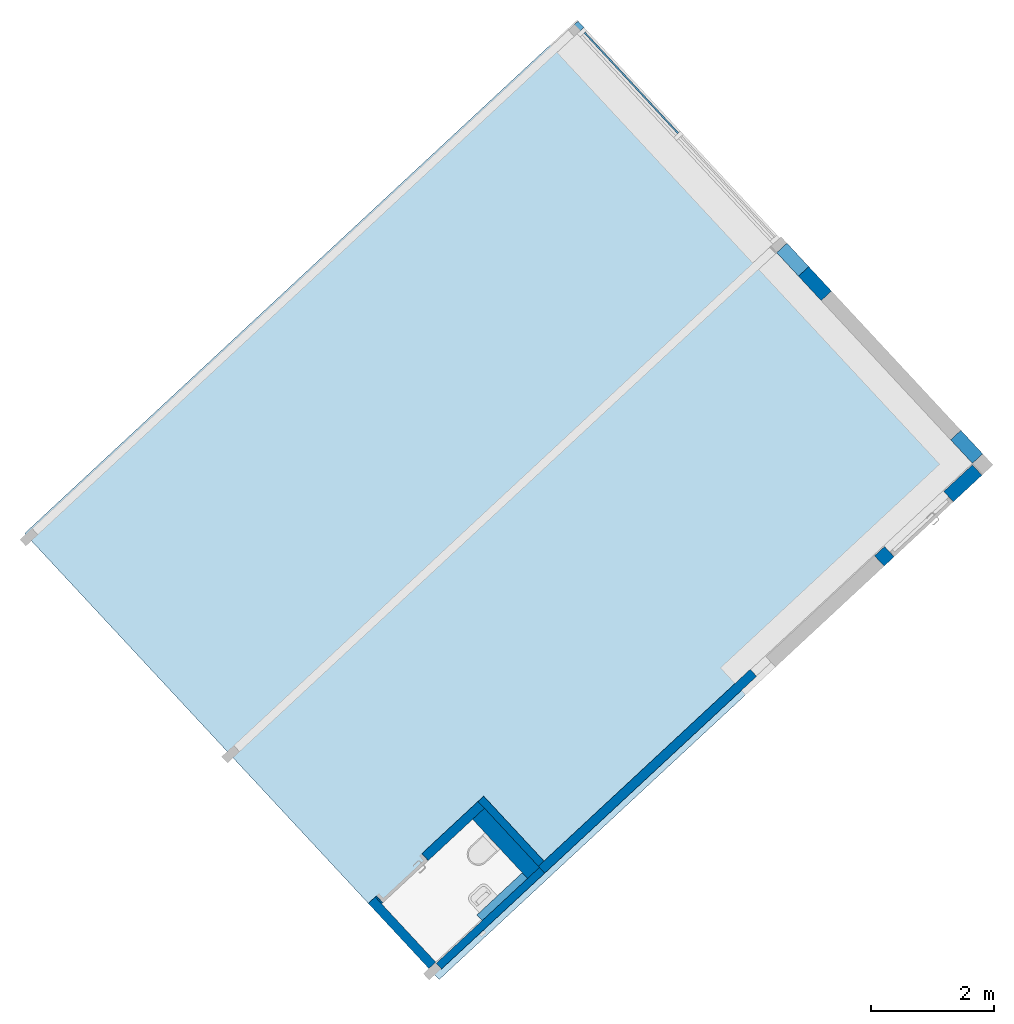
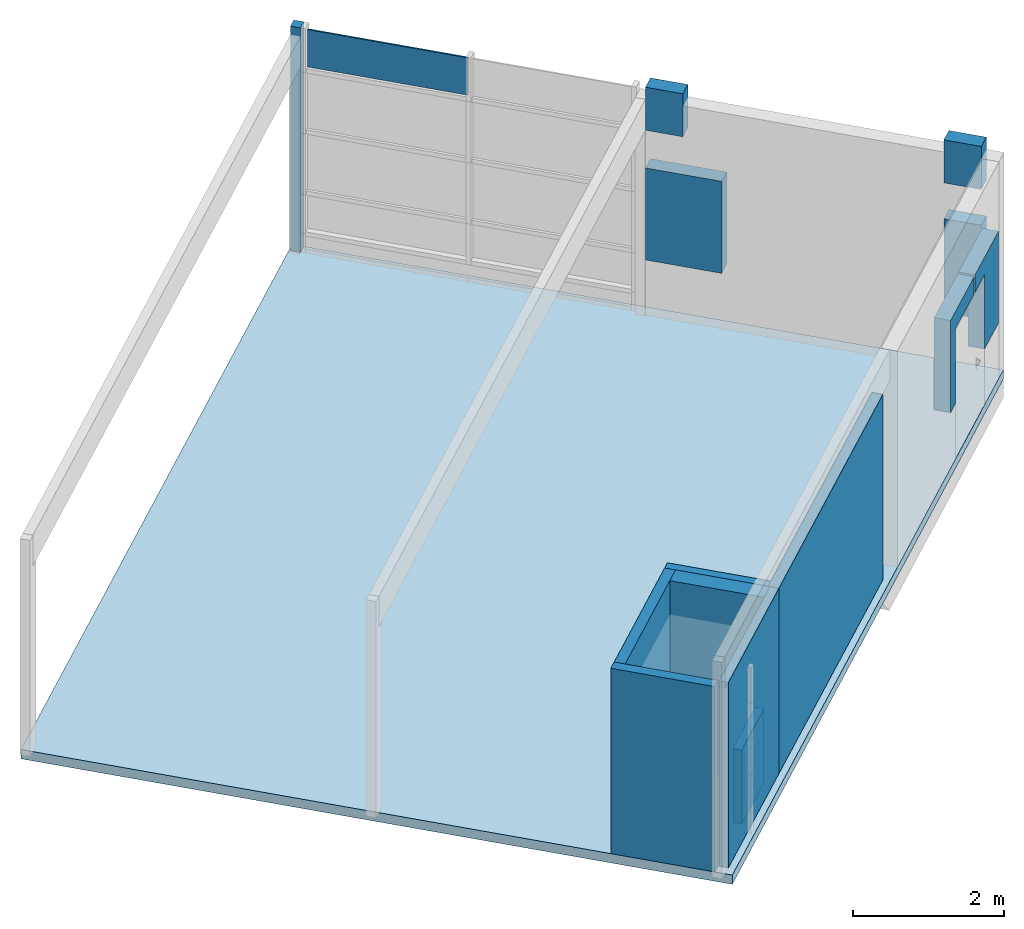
# One storey, part 3 of 7: 13 walls, 2 plates, 1 slab, 1 opening, 1 element without a shape of its own.
"""IFC2X3 building model written with IfcOpenShell, lengths in millimetres."""

from ifc_helpers import new_model, entity, si_unit, converted_unit, derived_unit, direction, frame, frame_2d, origin, origin_with_axes, origin_2d_with_axis, place, context, subcontext, project, spatial, polyline, rectangle, extrude, clip, bounded_halfspace, faceted_brep, source, transform, mapped, material, layer, layer_set, layer_usage, type_object, element, aggregate, save


model = new_model("IFC2X3")

# Units and contexts
model_context = context("Model", 3, precision=0.01, world=origin(), true_north=direction((6.12323399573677e-17, 1.0)))
plan_context = context("Plan", 3, precision=1e-05, world=origin_with_axes())
body_context = subcontext(model_context, "Body", "Model", "MODEL_VIEW")
ifc_project = project(units=[converted_unit("PLANEANGLEUNIT", "DEGREE", entity("IfcPositiveLengthMeasure", 0.0174532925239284), si_unit("PLANEANGLEUNIT", "RADIAN"), dimensions=[0, 0, 0, 0, 0, 0, 0]), si_unit("AREAUNIT", "SQUARE_METRE"), si_unit("LENGTHUNIT", "METRE", prefix="MILLI"), si_unit("MASSUNIT", "GRAM", prefix="KILO"), si_unit("POWERUNIT", "WATT"), si_unit("PRESSUREUNIT", "PASCAL", prefix="KILO"), si_unit("FORCEUNIT", "NEWTON", prefix="KILO"), si_unit("ELECTRICVOLTAGEUNIT", "VOLT"), si_unit("ELECTRICCURRENTUNIT", "AMPERE"), si_unit("THERMODYNAMICTEMPERATUREUNIT", "DEGREE_CELSIUS"), si_unit("TIMEUNIT", "SECOND"), si_unit("VOLUMEUNIT", "CUBIC_METRE"), derived_unit("LINEARVELOCITYUNIT", [(si_unit("LENGTHUNIT", "METRE"), 1), (si_unit("TIMEUNIT", "SECOND"), -1)]), derived_unit("VOLUMETRICFLOWRATEUNIT", [(si_unit("VOLUMEUNIT", "CUBIC_METRE"), 1), (si_unit("TIMEUNIT", "SECOND"), -1)]), derived_unit("THERMALTRANSMITTANCEUNIT", [(si_unit("POWERUNIT", "WATT"), 1), (si_unit("THERMODYNAMICTEMPERATUREUNIT", "KELVIN"), -1), (si_unit("AREAUNIT", "SQUARE_METRE"), -1)]), derived_unit("SOUNDPRESSUREUNIT", [(si_unit("PRESSUREUNIT", "PASCAL"), 1)])], contexts=[model_context, plan_context])

# Site, building, storey
site_placement = place(None, frame((159880.25068742, 140851.808625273, 0.0), z_axis=(0.0, 0.0, 1.0), x_axis=(-0.680735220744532, 0.732529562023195, 0.0)))
site = spatial("IfcSite", under=ifc_project, at=site_placement, Name="Default", CompositionType="ELEMENT")
building_placement = place(site_placement, origin_with_axes())
building = spatial("IfcBuilding", under=site, at=building_placement, CompositionType="ELEMENT")
storey_placement = place(building_placement, frame((0.0, 0.0, 4900.0), z_axis=(0.0, 0.0, 1.0), x_axis=(1.0, 0.0, 0.0)))
storey = spatial("IfcBuildingStorey", under=building, at=storey_placement, Name="001-01", CompositionType="ELEMENT", Elevation=4900.0)

# Curtain wall, plates
curtain_wall_type = type_object("IfcCurtainWallType", Name="Curtain Wall:Curtain Wall 1", PredefinedType="NOTDEFINED")
curtain_wall_placement = place(storey_placement, frame((0.0, 0.0, -4900.0), z_axis=(0.0, 0.0, 1.0), x_axis=(1.0, 0.0, 0.0)))
curtain_wall = element("IfcCurtainWall", 1, at=curtain_wall_placement, inside=storey, type_object=curtain_wall_type, Name="Curtain Wall:Curtain Wall 1", ObjectType="Curtain Wall:Curtain Wall 1")
ifc_material_1 = material(Name="Aluminium")
plate_type_1 = type_object("IfcPlateType", Name="System Panel:Tettfelt 150mm", PredefinedType="CURTAIN_PANEL", material=ifc_material_1)
shared_shape_1 = source(origin(), body_context, "Body", "SweptSolid", [
    extrude(rectangle(XDim=3635.0, YDim=140.000000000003, at=frame_2d((191.666666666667, 0.0), x_axis=(1.0, 0.0))), frame((0.0, -75.0, 1625.83333333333), z_axis=(0.0, 1.0, 0.0), x_axis=(0.0, 0.0, 1.0)), (0.0, 0.0, 1.0), 150.0),
])
plate_1_placement = place(curtain_wall_placement, frame((57600.0, -71.0, 4900.0), z_axis=(0.0, 0.0, 1.0), x_axis=(1.0, 0.0, 0.0)))
plate_1 = element("IfcPlate", 2, at=plate_1_placement, type_object=plate_type_1, material=ifc_material_1, Name="System Panel:Tettfelt 150mm", ObjectType="System Panel:Tettfelt 150mm", context=body_context, shape_type="MappedRepresentation", body=[
    mapped(shared_shape_1, transform((0.0, 0.0, 0.0), scale=1.0)),
])
ifc_material_2 = material(Name="Glass")
plate_type_2 = type_object("IfcPlateType", Name="System Panel:Glassfelt 25mm", PredefinedType="CURTAIN_PANEL", material=ifc_material_2)
shared_shape_2 = source(origin(), body_context, "Body", "SweptSolid", [
    extrude(rectangle(XDim=25.0, YDim=2224.99999999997, at=origin_2d_with_axis()), frame((1112.49999999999, 12.5, 0.0), z_axis=(0.0, 0.0, 1.0), x_axis=(0.0, 1.0, 0.0)), (0.0, 0.0, 1.0), 605.0),
])
plate_2_placement = place(curtain_wall_placement, frame((55235.0, -108.499999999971, 7860.0), z_axis=(0.0, 0.0, 1.0), x_axis=(1.0, 0.0, 0.0)))
plate_2 = element("IfcPlate", 3, at=plate_2_placement, type_object=plate_type_2, material=ifc_material_2, Name="System Panel:Glassfelt 25mm", ObjectType="System Panel:Glassfelt 25mm", context=body_context, shape_type="MappedRepresentation", body=[
    mapped(shared_shape_2, transform((0.0, 0.0, 0.0), scale=1.0)),
])
aggregate(curtain_wall, [plate_1, plate_2])

# Slab
ifc_material_3 = material(Name="Betong - Plasstøpt")
ifc_layer_1 = layer(ifc_material_3, 150.0)
ifc_layer_set_1 = layer_set([ifc_layer_1], Name="Floor:Betong Plasstøpt 150mm")
slab_type = type_object("IfcSlabType", Name="Floor:Betong Plasstøpt 150mm", PredefinedType="FLOOR", material=ifc_layer_set_1)
slab_placement = place(storey_placement, origin_with_axes())
element("IfcSlab", 4, at=slab_placement, inside=storey, type_object=slab_type, Name="Floor:Betong Plasstøpt 150mm", ObjectType="Floor:Betong Plasstøpt 150mm", PredefinedType="FLOOR", context=body_context, shape_type="Brep", body=[
    faceted_brep([(57693.167458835, -145.999999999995, 0.0), (57693.167458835, -145.999999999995, -150.0), (47824.9999999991, -145.999999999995, -150.0), (47824.9999999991, -145.999999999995, 0.0), (47824.9999999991, 4702.00000000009, -150.0), (47824.9999999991, 4702.00000000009, 0.0), (47825.0000000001, 12075.9999999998, -1.13686837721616e-13), (57693.1674588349, 12075.9999999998, -1.13686837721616e-13), (57693.1674588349, 12075.9999999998, -150.0), (47825.0, 12075.9999999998, -150.0)], [[[0, 1, 2, 3]], [[3, 2, 4, 5]], [[6, 7, 0, 3]], [[1, 8, 9, 2]], [[8, 1, 0, 7]], [[7, 6, 9, 8]], [[6, 5, 4, 9]]], orient=[[False], [False], [False], [False], [False], [False], [False]]),
])

# Walls
ifc_material_4 = material(Name="Vegg - Dobbelfals Stående Kledning - HVIT")
ifc_layer_2 = layer(ifc_material_4, 19.0)
ifc_material_5 = material(Name="Vegg - Utlekting")
ifc_layer_3 = layer(ifc_material_5, 36.0)
ifc_material_6 = material(Name="Vegg - Asfaltplate")
ifc_layer_4 = layer(ifc_material_6, 12.0)
ifc_material_7 = material(Name="Vegg - Konstruksjon Fylt grå")
ifc_layer_5 = layer(ifc_material_7, 148.0)
ifc_material_8 = material(Name="Vegg - Veggplater")
ifc_layer_6 = layer(ifc_material_8, 12.0)
ifc_layer_set_2 = layer_set([ifc_layer_2, ifc_layer_3, ifc_layer_4, ifc_layer_5, ifc_layer_6], Name="Basic Wall:YV 1_ Tre 148 Isolert Stående Kledning")
wall_type_1 = type_object("IfcWallType", Name="Basic Wall:YV 1_ Tre 148 Isolert Stående Kledning", PredefinedType="STANDARD", material=ifc_layer_set_2)
wall_1_placement = place(storey_placement, frame((47938.5, 1174.0, 900.0), z_axis=(0.0, 0.0, 1.0), x_axis=(0.0, 1.0, 0.0)))
element("IfcWall", 5, at=wall_1_placement, inside=storey, type_object=wall_type_1, Name="Basic Wall:YV 1_ Tre 148 Isolert Stående Kledning", ObjectType="Basic Wall:YV 1_ Tre 148 Isolert Stående Kledning", context=body_context, shape_type="Brep", body=[
    faceted_brep([(0.0, -113.499999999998, 1490.0), (0.0, -113.499999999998, 1210.0), (838.0, -113.499999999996, 1210.0), (838.0, -113.499999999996, 0.0), (1060.0, -113.499999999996, 0.0), (1060.0, -113.499999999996, 1490.0), (0.0, 113.500000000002, 1210.0), (0.0, 113.500000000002, 1490.0), (1060.0, 113.500000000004, 1490.0), (1060.0, 113.500000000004, 0.0), (838.0, 113.500000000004, 0.0), (838.0, 113.500000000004, 1210.0)], [[[0, 1, 2, 3, 4, 5]], [[6, 7, 8, 9, 10, 11]], [[0, 7, 6, 1]], [[7, 0, 5, 8]], [[8, 5, 4, 9]], [[9, 4, 3, 10]], [[2, 11, 10, 3]], [[11, 2, 1, 6]]]),
])
ifc_layer_usage_1 = layer_usage(ifc_layer_set_2, "AXIS2", "NEGATIVE", 113.5)
wall_2_placement = place(storey_placement, frame((48590.0000007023, -61.4999999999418, 900.0), z_axis=(0.0, 0.0, 1.0), x_axis=(-1.0, 0.0, 0.0)))
element("IfcWallStandardCase", 6, at=wall_2_placement, inside=storey, type_object=wall_type_1, material=ifc_layer_usage_1, Name="Basic Wall:YV 1_ Tre 148 Isolert Stående Kledning", ObjectType="Basic Wall:YV 1_ Tre 148 Isolert Stående Kledning", context=body_context, shape_type="SweptSolid", body=[
    extrude(rectangle(XDim=520.000000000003, YDim=227.0, at=frame_2d((-4.32009983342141e-12, 6.3948846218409e-14), x_axis=(1.0, 0.0))), frame((260.0, 0.0, 0.0), z_axis=(0.0, 0.0, 1.0), x_axis=(-1.0, 0.0, 0.0)), (0.0, 0.0, 1.0), 1520.0),
])
ifc_layer_usage_2 = layer_usage(ifc_layer_set_2, "AXIS2", "NEGATIVE", 113.5)
wall_3_placement = place(storey_placement, frame((52730.0, -61.4999999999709, 900.0), z_axis=(0.0, 0.0, 1.0), x_axis=(-1.0, 0.0, 0.0)))
element("IfcWallStandardCase", 7, at=wall_3_placement, inside=storey, type_object=wall_type_1, material=ifc_layer_usage_2, Name="Basic Wall:YV 1_ Tre 148 Isolert Stående Kledning", ObjectType="Basic Wall:YV 1_ Tre 148 Isolert Stående Kledning", context=body_context, shape_type="SweptSolid", body=[
    extrude(rectangle(XDim=1059.99999999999, YDim=227.0, at=frame_2d((0.0, 6.3948846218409e-14), x_axis=(1.0, 0.0))), frame((530.0, 0.0, 0.0)), (0.0, 0.0, 1.0), 1490.0),
])
ifc_layer_usage_3 = layer_usage(ifc_layer_set_2, "AXIS2", "NEGATIVE", 113.5)
wall_4_placement = place(storey_placement, frame((52730.0, -61.4999999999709, 3000.0), z_axis=(0.0, 0.0, 1.0), x_axis=(-1.0, 0.0, 0.0)))
element("IfcWallStandardCase", 8, at=wall_4_placement, inside=storey, type_object=wall_type_1, material=ifc_layer_usage_3, Name="Basic Wall:YV 1_ Tre 148 Isolert Stående Kledning", ObjectType="Basic Wall:YV 1_ Tre 148 Isolert Stående Kledning", context=body_context, shape_type="SweptSolid", body=[
    extrude(rectangle(XDim=520.000000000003, YDim=227.0, at=frame_2d((4.32009983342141e-12, -7.105427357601e-14), x_axis=(1.0, 0.0))), frame((260.0, 0.0, 0.0), z_axis=(0.0, 0.0, 1.0), x_axis=(-1.0, 0.0, 0.0)), (0.0, 0.0, 1.0), 696.0),
])
ifc_layer_usage_4 = layer_usage(ifc_layer_set_2, "AXIS2", "NEGATIVE", 113.5)
wall_5_placement = place(storey_placement, frame((48590.0000007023, -61.4999999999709, 3000.0), z_axis=(0.0, 0.0, 1.0), x_axis=(-1.0, 0.0, 0.0)))
element("IfcWallStandardCase", 9, at=wall_5_placement, inside=storey, type_object=wall_type_1, material=ifc_layer_usage_4, Name="Basic Wall:YV 1_ Tre 148 Isolert Stående Kledning", ObjectType="Basic Wall:YV 1_ Tre 148 Isolert Stående Kledning", context=body_context, shape_type="SweptSolid", body=[
    extrude(rectangle(XDim=520.000000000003, YDim=227.0, at=frame_2d((0.0, 6.3948846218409e-14), x_axis=(1.0, 0.0))), frame((260.0, 0.0, 0.0), z_axis=(0.0, 0.0, 1.0), x_axis=(-1.0, 0.0, 0.0)), (0.0, 0.0, 1.0), 696.0),
])
wall_6_placement = place(storey_placement, frame((47938.5, 70.0, 900.0), z_axis=(0.0, 0.0, 1.0), x_axis=(0.0, 1.0, 0.0)))
element("IfcWall", 10, at=wall_6_placement, inside=storey, type_object=wall_type_1, Name="Basic Wall:YV 1_ Tre 148 Isolert Stående Kledning", ObjectType="Basic Wall:YV 1_ Tre 148 Isolert Stående Kledning", context=body_context, shape_type="Brep", body=[
    faceted_brep([(0.0, -113.5, 1490.0), (0.0, -113.5, 0.0), (632.0, -113.499999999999, 0.0), (632.0, -113.499999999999, 1210.0), (1060.0, -113.499999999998, 1210.0), (1060.0, -113.499999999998, 1490.0), (0.0, 113.5, 0.0), (0.0, 113.5, 1490.0), (1060.0, 113.500000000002, 1490.0), (1060.0, 113.500000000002, 1210.0), (632.0, 113.500000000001, 1210.0), (632.0, 113.500000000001, 0.0)], [[[0, 1, 2, 3, 4, 5]], [[6, 7, 8, 9, 10, 11]], [[6, 1, 0, 7]], [[7, 0, 5, 8]], [[8, 5, 4, 9]], [[1, 6, 11, 2]], [[3, 10, 9, 4]], [[10, 3, 2, 11]]]),
])
ifc_material_9 = material(Name="Gips")
ifc_layer_7 = layer(ifc_material_9, 13.0)
ifc_layer_8 = layer(ifc_material_9, 13.0)
ifc_material_10 = material(Name="Isolasjon")
ifc_layer_9 = layer(ifc_material_10, 100.0)
ifc_layer_10 = layer(ifc_material_9, 13.0)
ifc_layer_11 = layer(ifc_material_9, 13.0)
ifc_layer_set_3 = layer_set([ifc_layer_7, ifc_layer_8, ifc_layer_9, ifc_layer_10, ifc_layer_11], Name="Basic Wall:Innervegg - 100mm Stender 2+2 Gips")
ifc_layer_usage_5 = layer_usage(ifc_layer_set_3, "AXIS2", "NEGATIVE", 76.0)
wall_type_2 = type_object("IfcWallType", Name="Basic Wall:Innervegg - 100mm Stender 2+2 Gips", PredefinedType="STANDARD", material=ifc_layer_set_3)
wall_7_placement = place(storey_placement, frame((48000.0, 4961.99999999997, 0.0), z_axis=(0.0, 0.0, 1.0), x_axis=(0.0, 1.0, 0.0)))
element("IfcWallStandardCase", 11, at=wall_7_placement, inside=storey, type_object=wall_type_2, material=ifc_layer_usage_5, Name="Basic Wall:Innervegg - 100mm Stender 2+2 Gips", ObjectType="Basic Wall:Innervegg - 100mm Stender 2+2 Gips", context=body_context, shape_type="Clipping", body=[
    clip(clip(extrude(rectangle(XDim=4688.0, YDim=152.0, at=frame_2d((2344.0, -3.90798504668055e-13), x_axis=(-1.0, 0.0))), origin(), (0.0, 0.0, 1.0), 3000.00000000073), bounded_halfspace(frame((4686.0, -50.0, 0.0), z_axis=(-1.0, 0.0, 0.0), x_axis=(0.0, -1.0, 0.0)), True, frame((4686.0, -50.0, 0.0), z_axis=(-1.0, 0.0, 0.0), x_axis=(0.0, -1.0, 0.0)), polyline([(0.0, 0.0), (26.0, 0.0), (26.0, 3000.0), (0.0, 3000.0), (0.0, 0.0)]))), bounded_halfspace(frame((4686.0, -50.0, 3000.0), z_axis=(0.0, 1.0, 0.0), x_axis=(-1.0, 0.0, 0.0)), True, frame((4686.0, -50.0, 3000.0), z_axis=(0.0, 1.0, 0.0), x_axis=(-1.0, 0.0, 0.0)), polyline([(0.0, 0.0), (-2.0, 0.0), (-2.0, -3000.0), (0.0, -3000.0), (0.0, 0.0)]))),
])
ifc_layer_usage_6 = layer_usage(ifc_layer_set_3, "AXIS2", "NEGATIVE", 76.0)
wall_8_placement = place(storey_placement, frame((48069.9999172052, 12000.0, 0.0), z_axis=(0.0, 0.0, 1.0), x_axis=(1.0, 0.0, 0.0)))
element("IfcWallStandardCase", 12, at=wall_8_placement, inside=storey, type_object=wall_type_2, material=ifc_layer_usage_6, Name="Basic Wall:Innervegg - 100mm Stender 2+2 Gips", ObjectType="Basic Wall:Innervegg - 100mm Stender 2+2 Gips", context=body_context, shape_type="SweptSolid", body=[
    extrude(rectangle(XDim=1441.00008279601, YDim=152.0, at=frame_2d((720.500041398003, 3.41060513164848e-13), x_axis=(-1.0, 0.0))), origin(), (0.0, 0.0, 1.0), 3000.00000000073),
])

# Wall, opening
ifc_layer_usage_7 = layer_usage(ifc_layer_set_3, "AXIS2", "POSITIVE", -76.0)
wall_9_placement = place(storey_placement, frame((49435.0000000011, 9649.99999999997, 0.0), z_axis=(0.0, 0.0, 1.0), x_axis=(0.0, 1.0, 0.0)))
wall_9 = element("IfcWallStandardCase", 13, at=wall_9_placement, inside=storey, type_object=wall_type_2, material=ifc_layer_usage_7, Name="Basic Wall:Innervegg - 100mm Stender 2+2 Gips", ObjectType="Basic Wall:Innervegg - 100mm Stender 2+2 Gips", context=body_context, shape_type="SweptSolid", body=[
    extrude(rectangle(XDim=2273.99999999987, YDim=152.0, at=frame_2d((1136.99999999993, 0.0), x_axis=(1.0, 0.0))), origin(), (0.0, 0.0, 1.0), 3000.00000000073),
])
opening_placement = place(wall_9_placement, frame((1240.0, -76.0000000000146, 0.0), z_axis=(0.0, 0.0, 1.0), x_axis=(1.0, 0.0, 0.0)))
element("IfcOpeningElement", 14, at=opening_placement, cuts=wall_9, Name="Enfløyet:Tredør 10x21 grå:1", ObjectType="Opening", context=body_context, shape_type="SweptSolid", body=[
    extrude(rectangle(XDim=2109.99999999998, YDim=1010.0, at=frame_2d((1054.99999999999, 505.0), x_axis=(1.0, 0.0))), frame((0.0, 0.0, 0.0), z_axis=(0.0, 1.0, 0.0), x_axis=(0.0, 0.0, 1.0)), (0.0, 0.0, 1.0), 152.0),
])

# Walls
ifc_layer_12 = layer(ifc_material_9, 13.0)
ifc_layer_13 = layer(ifc_material_9, 13.0)
ifc_layer_14 = layer(ifc_material_10, 100.0)
ifc_layer_set_4 = layer_set([ifc_layer_12, ifc_layer_13, ifc_layer_14], Name="Basic Wall:Innervegg - 100mm Stender 2+0 Gips")
ifc_layer_usage_8 = layer_usage(ifc_layer_set_4, "AXIS2", "POSITIVE", -63.0)
wall_type_3 = type_object("IfcWallType", Name="Basic Wall:Innervegg - 100mm Stender 2+0 Gips", PredefinedType="STANDARD", material=ifc_layer_set_4)
wall_10_placement = place(storey_placement, frame((48076.0, 9586.99999999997, 0.0), z_axis=(0.0, 0.0, 1.0), x_axis=(1.0, 0.0, 0.0)))
element("IfcWallStandardCase", 15, at=wall_10_placement, inside=storey, type_object=wall_type_3, material=ifc_layer_usage_8, Name="Basic Wall:Innervegg - 100mm Stender 2+0 Gips", ObjectType="Basic Wall:Innervegg - 100mm Stender 2+0 Gips", context=body_context, shape_type="Clipping", body=[
    clip(clip(extrude(rectangle(XDim=1435.00000000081, YDim=126.0, at=frame_2d((717.500000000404, 1.24344978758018e-13), x_axis=(-1.0, 0.0))), origin(), (0.0, 0.0, 1.0), 3000.00000000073), bounded_halfspace(frame((1283.0, 61.0, 3000.0), z_axis=(0.0, -1.0, 0.0), x_axis=(1.0, 0.0, 0.0)), True, frame((1283.0, 61.0, 3000.0), z_axis=(0.0, -1.0, 0.0), x_axis=(1.0, 0.0, 0.0)), polyline([(0.0, 0.0), (-1283.0, 0.0), (-1283.0, -3000.0), (0.0, -3000.0), (0.0, 0.0)]))), bounded_halfspace(frame((1283.0, 61.0, 0.0), z_axis=(-1.0, 0.0, 0.0), x_axis=(0.0, -1.0, 0.0)), False, frame((1283.0, 61.0, 0.0), z_axis=(-1.0, 0.0, 0.0), x_axis=(0.0, -1.0, 0.0)), polyline([(0.0, 0.0), (0.0, 3000.0), (-2.0, 3000.0), (-2.0, 0.0), (0.0, 0.0)]))),
])
ifc_layer_usage_9 = layer_usage(ifc_layer_set_4, "AXIS2", "NEGATIVE", 63.0)
wall_11_placement = place(storey_placement, frame((47987.0, 9649.99999999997, 0.0), z_axis=(0.0, 0.0, 1.0), x_axis=(0.0, 1.0, 0.0)))
element("IfcWallStandardCase", 16, at=wall_11_placement, inside=storey, type_object=wall_type_3, material=ifc_layer_usage_9, Name="Basic Wall:Innervegg - 100mm Stender 2+0 Gips", ObjectType="Basic Wall:Innervegg - 100mm Stender 2+0 Gips", context=body_context, shape_type="SweptSolid", body=[
    extrude(rectangle(XDim=2281.50101283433, YDim=126.000000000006, at=frame_2d((1140.75050641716, 1.91491267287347e-12), x_axis=(-1.0, 0.0))), origin(), (0.0, 0.0, 1.0), 3000.00000000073),
])
ifc_layer_15 = layer(ifc_material_9, 13.0)
ifc_layer_16 = layer(ifc_material_10, 250.0)
ifc_layer_set_5 = layer_set([ifc_layer_15, ifc_layer_16], Name="Basic Wall:Innervegg - 250mm Stender 1+0 Gips")
ifc_layer_usage_10 = layer_usage(ifc_layer_set_5, "AXIS2", "NEGATIVE", 131.5)
wall_type_4 = type_object("IfcWallType", Name="Basic Wall:Innervegg - 250mm Stender 1+0 Gips", PredefinedType="STANDARD", material=ifc_layer_set_5)
wall_12_placement = place(storey_placement, frame((48050.0, 9779.49999999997, 0.0), z_axis=(0.0, 0.0, 1.0), x_axis=(1.0, 0.0, 0.0)))
element("IfcWallStandardCase", 17, at=wall_12_placement, inside=storey, type_object=wall_type_4, material=ifc_layer_usage_10, Name="Basic Wall:Innervegg - 250mm Stender 1+0 Gips", ObjectType="Basic Wall:Innervegg - 250mm Stender 1+0 Gips", context=body_context, shape_type="SweptSolid", body=[
    extrude(rectangle(XDim=1309.00000000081, YDim=263.0, at=frame_2d((654.500000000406, -1.4352963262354e-12), x_axis=(-1.0, 0.0))), origin(), (0.0, 0.0, 1.0), 3000.0),
])
ifc_layer_17 = layer(ifc_material_9, 13.0)
ifc_layer_18 = layer(ifc_material_9, 13.0)
ifc_layer_19 = layer(ifc_material_10, 100.0)
ifc_layer_set_6 = layer_set([ifc_layer_17, ifc_layer_18, ifc_layer_19], Name="Basic Wall:Innervegg - 100mm Stender 2+0 Gips (wrap)")
ifc_layer_usage_11 = layer_usage(ifc_layer_set_6, "AXIS2", "NEGATIVE", 63.0)
wall_type_5 = type_object("IfcWallType", Name="Basic Wall:Innervegg - 100mm Stender 2+0 Gips (wrap)", PredefinedType="STANDARD", material=ifc_layer_set_6)
wall_13_placement = place(storey_placement, frame((48113.0, 10914.5, 0.0), z_axis=(0.0, 0.0, 1.0), x_axis=(0.0, -1.0, 0.0)))
element("IfcWallStandardCase", 18, at=wall_13_placement, inside=storey, type_object=wall_type_5, material=ifc_layer_usage_11, Name="Basic Wall:Innervegg - 100mm Stender 2+0 Gips (wrap)", ObjectType="Basic Wall:Innervegg - 100mm Stender 2+0 Gips (wrap)", context=body_context, shape_type="SweptSolid", body=[
    extrude(rectangle(XDim=1003.5, YDim=126.000000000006, at=frame_2d((501.750000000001, 0.0), x_axis=(-1.0, 0.0))), origin(), (0.0, 0.0, 1.0), 1200.0),
])

save(model, "model.ifc")
